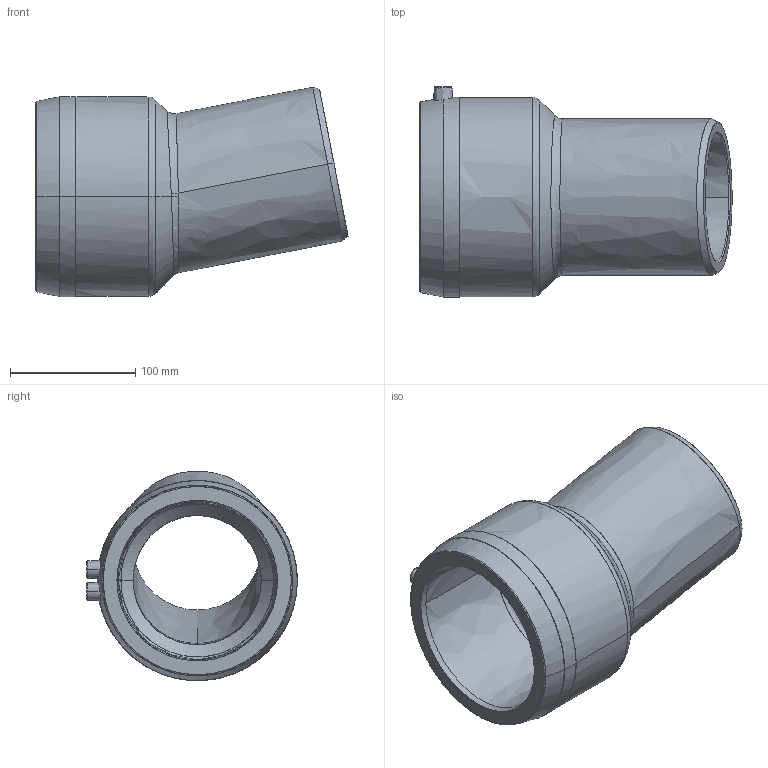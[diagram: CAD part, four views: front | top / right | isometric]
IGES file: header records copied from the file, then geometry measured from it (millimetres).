
Start section:  PTC IGES file: ws11_d125.igs
Global section: file name: ws11_d125.igs; native system: Pro/ENGINEER by Parametric Technology Corporation; preprocessor: 2011490; author: mtunjic; organization: Unknown; date: 20130807.142244; units: millimetre
Bounding box: 248.93 x 168 x 166.96 mm (x, y, z)
Surface area: 203115.8 mm2 (no closed solid volume)
Topology: 0 solids, 0 shells, 173 faces, 880 edges, 878 vertices
Faces by surface type: bspline 173
